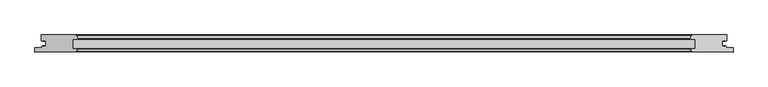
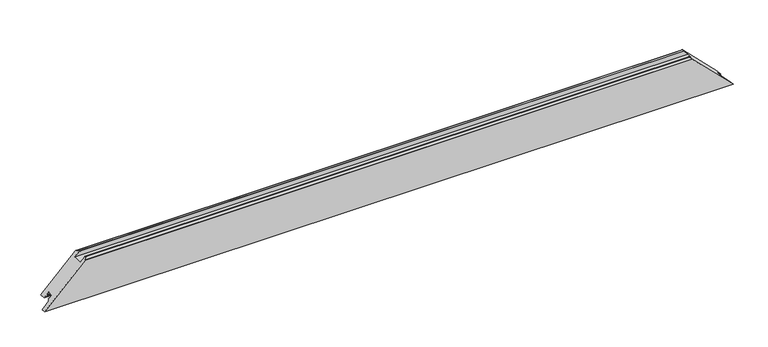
"""IFC4 building model written with IfcOpenShell, lengths in millimetres: proxy geometry, Weiku - Montante - Folha 02.2.01.019-039 : Weiku - Montante - Folha 02.2.01.019-039."""

from ifc_helpers import new_model, si_unit, frame, origin, place, context, project, spatial, ellipse_curve, source, transform, mapped, element, save
from ifc_brep_helpers import plane_surface, cylinder_surface, advanced_brep


def generic_models_d499863a(model_context):
    return source(origin(), model_context, "Body", "AdvancedBrep", [
        advanced_brep(
        [(1003.5000338, 50.0, 17.9999662), (901.9977922, 50.0, 119.5022078), (899.1000147, 47.7764571, 122.3999853), (896.5150961, 38.1294095, 124.9849039), (896.998059, 37.5, 124.501941), (910.498059, 37.5, 111.001941), (910.498059, 9.5, 111.001941), (897.7114874, 9.5, 123.7885126), (896.5493385, 7.617411, 124.9506615), (900.0913247, 0.5518546, 121.4086753), (900.9852854, 0.0, 120.5147146), (1021.5, 0.0, 0.0), (1021.5, 12.5, 0.0), (1001.5, 12.5, 20.0), (1001.5, 16.9, 20.0), (999.3, 16.9, 22.2), (999.3, 18.9, 22.2), (996.5, 18.9, 25.0), (996.5, 16.9, 25.0), (990.0, 16.9, 31.5), (990.0, 33.1, 31.5), (996.5, 33.1, 25.0), (996.5, 31.1, 25.0), (999.3, 31.1, 22.2), (999.3, 33.1, 22.2), (1003.5000338, 33.1, 17.9999662), (-901.9977922, 50.0, 119.5022078), (-1003.5000338, 50.0, 17.9999662), (-1003.5000338, 33.1, 17.9999662), (-999.3, 33.1, 22.2), (-999.3, 31.1, 22.2), (-996.5, 31.1, 25.0), (-996.5, 33.1, 25.0), (-990.0, 33.1, 31.5), (-990.0, 16.9, 31.5), (-996.5, 16.9, 25.0), (-996.5, 18.9, 25.0), (-999.3, 18.9, 22.2), (-999.3, 16.9, 22.2), (-1001.5, 16.9, 20.0), (-1001.5, 12.5, 20.0), (-1021.5, 12.5, 0.0), (-1021.5, 0.0, 0.0), (-900.9852854, 0.0, 120.5147146), (-900.0913247, 0.5518546, 121.4086753), (-896.5493385, 7.617411, 124.9506615), (-897.7114874, 9.5, 123.7885126), (-910.498059, 9.5, 111.001941), (-910.498059, 37.5, 111.001941), (-896.998059, 37.5, 124.501941), (-896.5150961, 38.1294095, 124.9849039), (-899.1000147, 47.7764571, 122.3999853)],
        [
            (0, 1),
            (1, 2, ellipse_curve(frame((901.9977922, 47.0, 119.5022078), z_axis=(0.7071067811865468, 0.0, 0.7071067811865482), x_axis=(-0.7071067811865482, 0.0, 0.7071067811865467)), 4.2426407, 3.0)),
            (2, 3),
            (3, 4, ellipse_curve(frame((896.998059, 38.0, 124.501941), z_axis=(0.7071067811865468, 0.0, 0.7071067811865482), x_axis=(-0.7071067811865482, 0.0, 0.7071067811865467)), 0.7071068, 0.5)),
            (4, 5),
            (5, 6),
            (6, 7),
            (7, 8, ellipse_curve(frame((897.7114874, 8.2, 123.7885126), z_axis=(0.7071067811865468, 0.0, 0.7071067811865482), x_axis=(-0.7071067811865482, 0.0, 0.7071067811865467)), 1.8384776, 1.3)),
            (8, 9),
            (9, 10, ellipse_curve(frame((900.9852854, 1.0, 120.5147146), z_axis=(0.7071067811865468, 0.0, 0.7071067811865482), x_axis=(-0.7071067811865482, 0.0, 0.7071067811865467)), 1.4142136, 1.0)),
            (10, 11),
            (11, 12),
            (12, 13),
            (13, 14),
            (14, 15),
            (15, 16),
            (16, 17),
            (17, 18),
            (18, 19),
            (19, 20),
            (20, 21),
            (21, 22),
            (22, 23),
            (23, 24),
            (24, 25),
            (25, 0),
            (26, 27),
            (27, 28),
            (28, 29),
            (29, 30),
            (30, 31),
            (31, 32),
            (32, 33),
            (33, 34),
            (34, 35),
            (35, 36),
            (36, 37),
            (37, 38),
            (38, 39),
            (39, 40),
            (40, 41),
            (41, 42),
            (42, 43),
            (43, 44, ellipse_curve(frame((-900.9852854, 1.0, 120.5147146), z_axis=(-0.7071067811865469, 0.0, 0.7071067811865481), x_axis=(-0.7071067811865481, 0.0, -0.7071067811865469)), 1.4142136, 1.0)),
            (44, 45),
            (45, 46, ellipse_curve(frame((-897.7114874, 8.2, 123.7885126), z_axis=(-0.7071067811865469, 0.0, 0.7071067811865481), x_axis=(-0.7071067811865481, 0.0, -0.7071067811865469)), 1.8384776, 1.3)),
            (46, 47),
            (47, 48),
            (48, 49),
            (49, 50, ellipse_curve(frame((-896.998059, 38.0, 124.501941), z_axis=(-0.7071067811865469, 0.0, 0.7071067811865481), x_axis=(-0.7071067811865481, 0.0, -0.7071067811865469)), 0.7071068, 0.5)),
            (50, 51),
            (51, 26, ellipse_curve(frame((-901.9977922, 47.0, 119.5022078), z_axis=(-0.7071067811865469, 0.0, 0.7071067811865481), x_axis=(-0.7071067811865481, 0.0, -0.7071067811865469)), 4.2426407, 3.0)),
            (0, 27),
            (26, 1),
            (25, 28),
            (24, 29),
            (23, 30),
            (22, 31),
            (21, 32),
            (20, 33),
            (19, 34),
            (18, 35),
            (17, 36),
            (16, 37),
            (15, 38),
            (14, 39),
            (13, 40),
            (12, 41),
            (11, 42),
            (10, 43),
            (9, 44),
            (8, 45),
            (7, 46),
            (6, 47),
            (5, 48),
            (4, 49),
            (3, 50),
            (2, 51),
        ],
        [
            plane_surface(frame((891.5, -13.0, 130.0), z_axis=(0.7071067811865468, 0.0, 0.7071067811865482), x_axis=(0.0, 1.0, 0.0))),
            plane_surface(frame((-1049.7842712, -13.0, -28.2842712), z_axis=(-0.7071067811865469, 0.0, 0.7071067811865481), x_axis=(0.0, 1.0, 0.0))),
            plane_surface(frame((-1021.5, 50.0, 119.5022078), z_axis=(0.0, 1.0, 0.0), x_axis=(1.0, 0.0, 0.0))),
            plane_surface(frame((-1021.5, 50.0, 17.9999662), z_axis=(0.0, 0.0, -1.0), x_axis=(1.0, 0.0, 0.0))),
            plane_surface(frame((-1021.5, 33.1, 17.9999662), z_axis=(0.0, -1.0, 0.0), x_axis=(1.0, 0.0, 0.0))),
            plane_surface(frame((-1021.5, 33.1, 22.2), z_axis=(0.0, 0.0, -1.0), x_axis=(1.0, 0.0, 0.0))),
            plane_surface(frame((-1021.5, 31.1, 22.2), z_axis=(0.0, -1.0, 0.0), x_axis=(1.0, 0.0, 0.0))),
            plane_surface(frame((-1021.5, 31.1, 25.0), z_axis=(0.0, 0.0, 1.0), x_axis=(1.0, 0.0, 0.0))),
            plane_surface(frame((-1021.5, 33.1, 25.0), z_axis=(0.0, -1.0, 0.0), x_axis=(1.0, 0.0, 0.0))),
            plane_surface(frame((-1021.5, 33.1, 31.5), z_axis=(0.0, 0.0, -1.0), x_axis=(1.0, 0.0, 0.0))),
            plane_surface(frame((-1021.5, 16.9, 31.5), z_axis=(0.0, 1.0, 0.0), x_axis=(1.0, 0.0, 0.0))),
            plane_surface(frame((-1021.5, 16.9, 25.0), z_axis=(0.0, 0.0, 1.0), x_axis=(1.0, 0.0, 0.0))),
            plane_surface(frame((-1021.5, 18.9, 25.0), z_axis=(0.0, 1.0, 0.0), x_axis=(1.0, 0.0, 0.0))),
            plane_surface(frame((-1021.5, 18.9, 22.2), z_axis=(0.0, 0.0, -1.0), x_axis=(1.0, 0.0, 0.0))),
            plane_surface(frame((-1021.5, 16.9, 22.2), z_axis=(0.0, 1.0, 0.0), x_axis=(1.0, 0.0, 0.0))),
            plane_surface(frame((-1021.5, 16.9, 20.0), z_axis=(0.0, 0.0, -1.0), x_axis=(1.0, 0.0, 0.0))),
            plane_surface(frame((-1021.5, 12.5, 20.0), z_axis=(0.0, 1.0, 0.0), x_axis=(1.0, 0.0, 0.0))),
            plane_surface(frame((-1021.5, 12.5, 0.0), z_axis=(0.0, 0.0, -1.0), x_axis=(1.0, 0.0, 0.0))),
            plane_surface(frame((-1021.5, 0.0, 0.0), z_axis=(0.0, -1.0, 0.0), x_axis=(1.0, 0.0, 0.0))),
            cylinder_surface(frame((-1021.5, 1.0, 120.5147146), z_axis=(-1.0, 0.0, 0.0), x_axis=(0.0, 1.0, 0.0)), 1.0),
            plane_surface(frame((-1021.5, 0.5518546, 121.4086753), z_axis=(0.0, -0.4481453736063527, 0.8939606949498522), x_axis=(1.0, 0.0, 0.0))),
            cylinder_surface(frame((-1021.5, 8.2, 123.7885126), z_axis=(-1.0, 0.0, 0.0), x_axis=(0.0, 1.0, 0.0)), 1.3),
            plane_surface(frame((-1021.5, 9.5, 123.7885126), z_axis=(0.0, 1.0, 0.0), x_axis=(1.0, 0.0, 0.0))),
            plane_surface(frame((-1021.5, 9.5, 111.001941), z_axis=(0.0, 0.0, 1.0), x_axis=(1.0, 0.0, 0.0))),
            plane_surface(frame((-1021.5, 37.5, 111.001941), z_axis=(0.0, -1.0, 0.0), x_axis=(1.0, 0.0, 0.0))),
            cylinder_surface(frame((-1021.5, 38.0, 124.501941), z_axis=(-1.0, 0.0, 0.0), x_axis=(0.0, 1.0, 0.0)), 0.5),
            plane_surface(frame((-1021.5, 38.1294095, 124.9849039), z_axis=(0.0, 0.2588190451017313, 0.9659258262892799), x_axis=(1.0, 0.0, 0.0))),
            cylinder_surface(frame((-1021.5, 47.0, 119.5022078), z_axis=(-1.0, 0.0, 0.0), x_axis=(0.0, 1.0, 0.0)), 3.0),
        ],
        [
            (0, [[1, 2, 3, 4, 5, 6, 7, 8, 9, 10, 11, 12, 13, 14, 15, 16, 17, 18, 19, 20, 21, 22, 23, 24, 25, 26]]),
            (1, [[27, 28, 29, 30, 31, 32, 33, 34, 35, 36, 37, 38, 39, 40, 41, 42, 43, 44, 45, 46, 47, 48, 49, 50, 51, 52]]),
            (2, [[-1, 53, -27, 54]]),
            (3, [[-26, 55, -28, -53]]),
            (4, [[-25, 56, -29, -55]]),
            (5, [[-24, 57, -30, -56]]),
            (6, [[-23, 58, -31, -57]]),
            (7, [[-22, 59, -32, -58]]),
            (8, [[-21, 60, -33, -59]]),
            (9, [[-20, 61, -34, -60]]),
            (10, [[-19, 62, -35, -61]]),
            (11, [[-18, 63, -36, -62]]),
            (12, [[-17, 64, -37, -63]]),
            (13, [[-16, 65, -38, -64]]),
            (14, [[-15, 66, -39, -65]]),
            (15, [[-14, 67, -40, -66]]),
            (16, [[68, -41, -67, -13]]),
            (17, [[-68, -12, 69, -42]]),
            (18, [[-69, -11, 70, -43]]),
            (19, [[-10, 71, -44, -70]]),
            (20, [[-9, 72, -45, -71]]),
            (21, [[-8, 73, -46, -72]]),
            (22, [[-7, 74, -47, -73]]),
            (23, [[-6, 75, -48, -74]]),
            (24, [[-5, 76, -49, -75]]),
            (25, [[-4, 77, -50, -76]]),
            (26, [[-3, 78, -51, -77]]),
            (27, [[-2, -54, -52, -78]]),
        ],
    ),
    ])


if __name__ == "__main__":
    model = new_model("IFC4")
    model_context = context("Model", 3, world=origin())
    ifc_project = project(units=[si_unit("LENGTHUNIT", "METRE", prefix="MILLI")], contexts=[model_context])
    site = spatial("IfcSite", under=ifc_project)
    building = spatial("IfcBuilding", under=site)
    placement = place(None, origin())
    generic_models_shape = generic_models_d499863a(model_context)
    element("IfcBuildingElementProxy", 1, Name="Weiku - Montante - Folha 02.2.01.019-039 : Weiku - Montante - Folha 02.2.01.019-039", ObjectType="Weiku - Montante - Folha 02.2.01.019-039 : Weiku - Montante - Folha 02.2.01.019-039", at=placement, inside=building, context=model_context, shape_type="MappedRepresentation", body=[
        mapped(generic_models_shape, transform((0.0, 0.0, 0.0), x_axis=(1.0, 0.0, 0.0), y_axis=(0.0, 1.0, 0.0), z_axis=(0.0, 0.0, 1.0))),
    ])
    save(model, "model.ifc")
